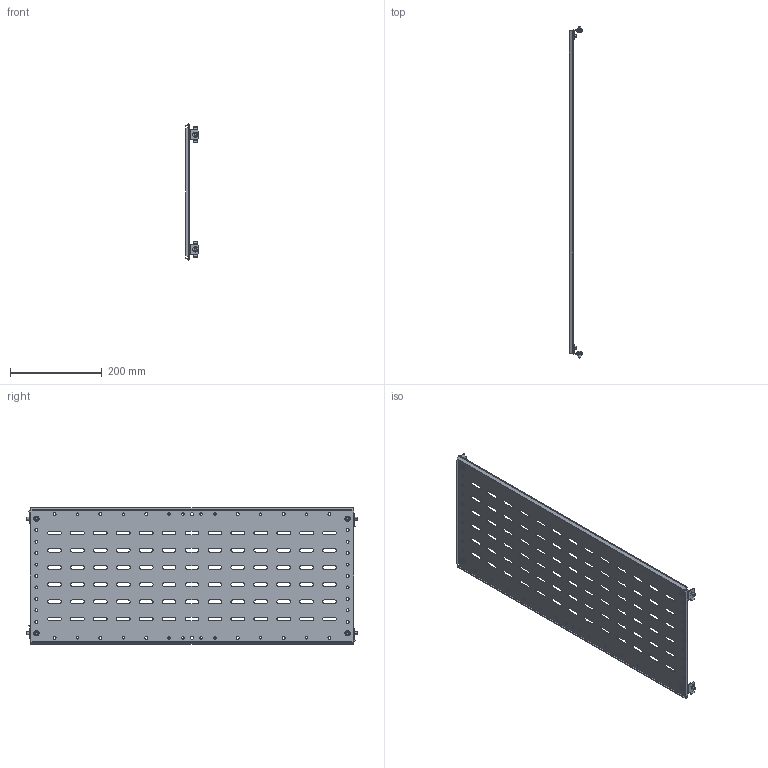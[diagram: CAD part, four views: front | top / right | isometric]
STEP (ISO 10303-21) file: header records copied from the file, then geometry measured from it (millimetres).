
FILE_DESCRIPTION (( 'STEP AP214' ), '1' );
FILE_NAME ('FO-00-SWF-030-080 Ïåðåãîðîäêà ñåêöèîíèðîâàíèÿ çàäíÿÿ 300õ800 ìì.STEP', '2025-08-12T09:14:20', ( '' ), ( '' ), 'SwSTEP 2.0', 'SolidWorks 2023', '' );
FILE_SCHEMA (( 'AUTOMOTIVE_DESIGN' ));
Length unit declared in the file: millimetre
Products named in the file (1): FO-00-SWF-030-080 Перегородка секционирования задняя 300х800 мм
Bounding box: 30.52 x 724 x 297.66 mm (x, y, z)
Volume: 321702.5 mm3; surface area: 433521.8 mm2
Topology: 1 solids, 5 shells, 878 faces, 2476 edges, 1628 vertices
Faces by surface type: cylinder 506, plane 316, torus 24, cone 24, sphere 8
Entity records: 29371 total; most frequent: CARTESIAN_POINT 5251, DIRECTION 5194, ORIENTED_EDGE 4952, EDGE_CURVE 2476, AXIS2_PLACEMENT_3D 1907, VERTEX_POINT 1628, VECTOR 1380, LINE 1380
